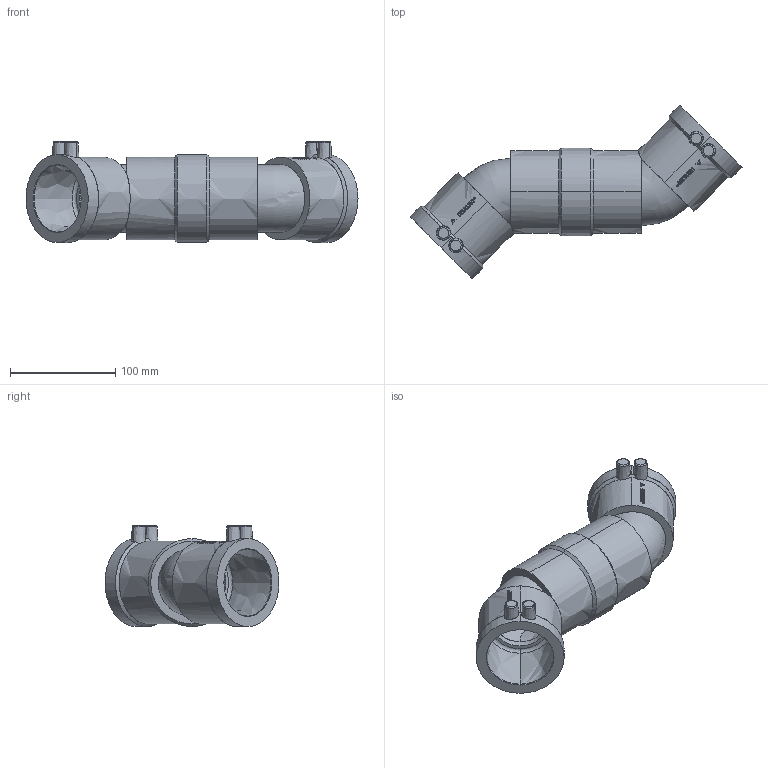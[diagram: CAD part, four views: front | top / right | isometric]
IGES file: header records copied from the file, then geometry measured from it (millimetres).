
Start section:  PTC IGES file: wet_d063_01.igs
Global section: file name: wet_d063_01.igs; native system: Pro/ENGINEER by Parametric Technology Corporation; preprocessor: 2011490; author: mtunjic; organization: Unknown; date: 20130812.102814; units: millimetre
Bounding box: 315.11 x 165.11 x 95.95 mm (x, y, z)
Surface area: 182482.1 mm2 (no closed solid volume)
Topology: 0 solids, 0 shells, 347 faces, 1784 edges, 1784 vertices
Faces by surface type: bspline 347
